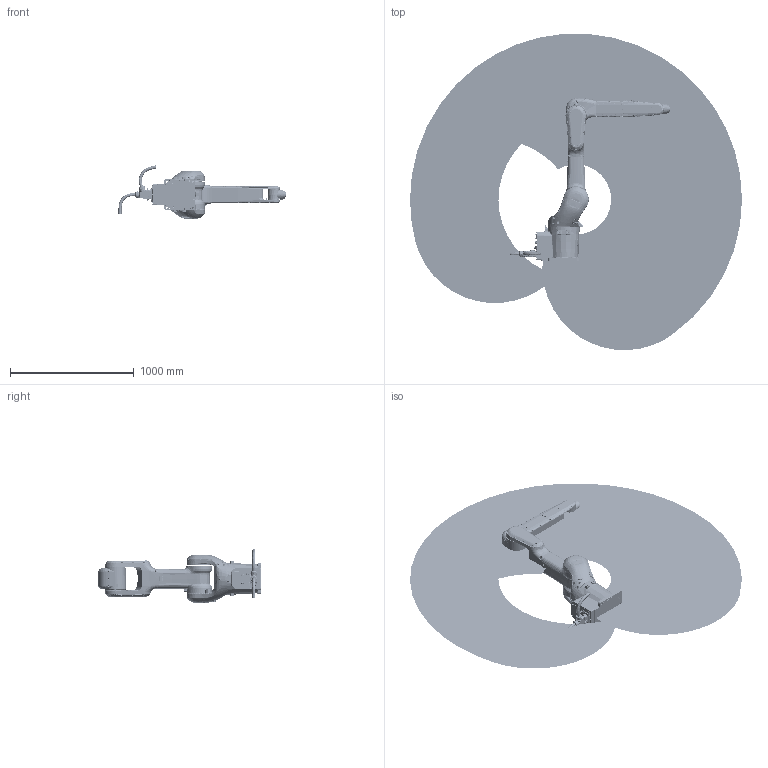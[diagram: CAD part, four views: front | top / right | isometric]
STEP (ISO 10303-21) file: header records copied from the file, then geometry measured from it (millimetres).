
FILE_DESCRIPTION (( 'STEP AP214' ), '1' );
FILE_NAME ('NB12s-1514 ¼ò»¯Ä£ÐÍSW2012(20250924).STEP', '2025-09-24T01:17:04', ( '' ), ( '' ), 'SwSTEP 2.0', 'SolidWorks 2012', '' );
FILE_SCHEMA (( 'AUTOMOTIVE_DESIGN' ));
Products named in the file (9): NB12-base-A; NB12-yao-A; NB12-shouwan-A; NB12-xiaobihou-A; NB12s-3DWork-A; NB12-dabi-A; NB12-shuchu-A; NB12s-1514 潠趙耀倰SW2012(20250924); NB12-xiaobiqian-Alogo
Assembly tree (8 placements, depth 2):
  NB12s-1514 潠趙耀倰SW2012(20250924)
    NB12-base-A
    NB12-yao-A
    NB12-dabi-A
    NB12-xiaobihou-A
    NB12-xiaobiqian-Alogo
    NB12-shouwan-A
    NB12-shuchu-A
    NB12s-3DWork-A
Bounding box: 2683.76 x 2556.53 x 432.18 mm (x, y, z)
Volume: 66088788.7 mm3; surface area: 7136209.8 mm2
Topology: 48 solids, 94 shells, 11524 faces, 27620 edges, 16420 vertices
Faces by surface type: plane 4548, bspline 2646, cylinder 2358, cone 1937, torus 35
Entity records: 666392 total; most frequent: CARTESIAN_POINT 424850, ORIENTED_EDGE 54321, DIRECTION 43352, EDGE_CURVE 27164, VERTEX_POINT 16419, AXIS2_PLACEMENT_3D 16163, EDGE_LOOP 12413, FACE_OUTER_BOUND 11523
